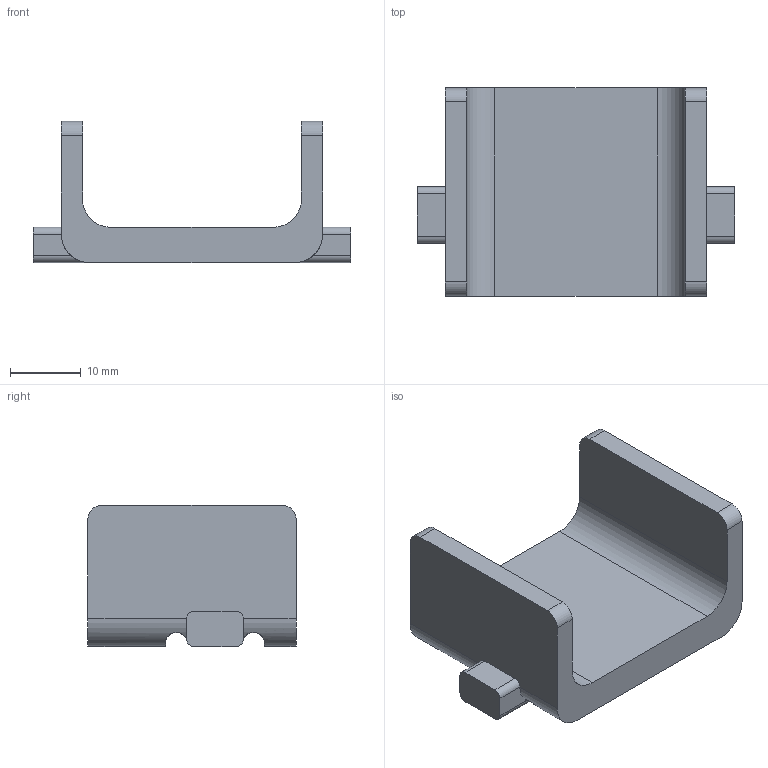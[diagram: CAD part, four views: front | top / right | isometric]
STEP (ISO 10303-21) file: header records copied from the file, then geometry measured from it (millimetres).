
FILE_DESCRIPTION((''),'2;1');
FILE_NAME('C:\Users\JamesRPatrick\Documents\Autodesk\PM422\STEP2.0\PM422BarrelCatch2.stp','2015-08-22T19:06:15',('JamesRPatrick'),(''),'Autodesk Inventor 2012','Autodesk Inventor 2012','');
FILE_SCHEMA(('AUTOMOTIVE_DESIGN { 1 0 10303 214 1 1 1 1 }'));
Length unit declared in the file: millimetre
Products named in the file (1): PM422BarrelCatch2
Bounding box: 45 x 29.5 x 20 mm (x, y, z)
Volume: 8111.6 mm3; surface area: 4958.2 mm2
Topology: 1 solids, 1 shells, 44 faces, 122 edges, 80 vertices
Faces by surface type: plane 24, cylinder 20
Entity records: 1528 total; most frequent: CARTESIAN_POINT 363, ORIENTED_EDGE 244, DIRECTION 236, EDGE_CURVE 122, AXIS2_PLACEMENT_3D 81, VERTEX_POINT 80, VECTOR 74, LINE 74
